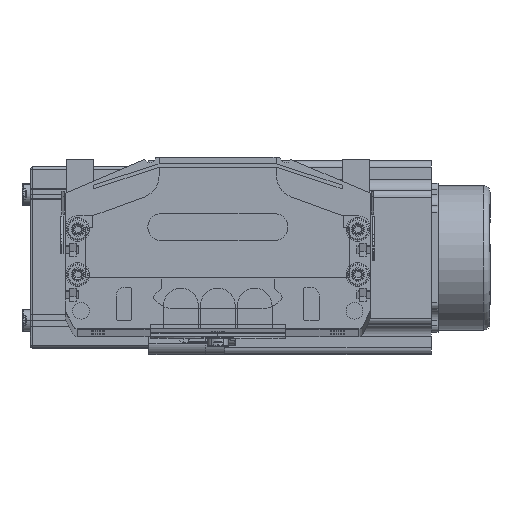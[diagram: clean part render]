
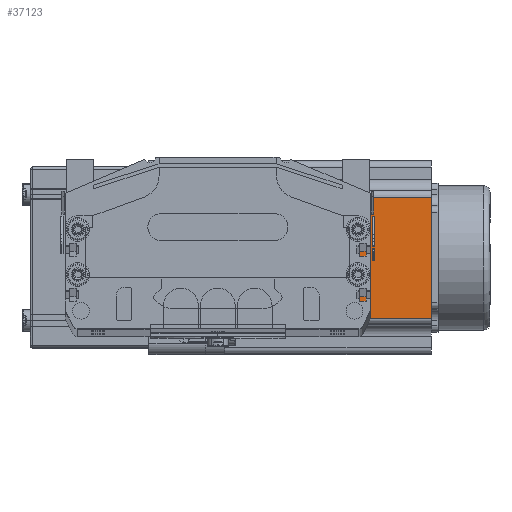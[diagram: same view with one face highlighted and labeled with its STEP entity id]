
A CAD part, top view. The second image highlights one B-rep face of the part: STEP entity #37123.
In plain terms, the highlighted planar face has unit normal (0, 0, 1) as drawn and (-1, 0, 0) by its records, which use the part's own axes.
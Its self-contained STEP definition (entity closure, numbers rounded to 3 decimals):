
#9176 = CARTESIAN_POINT ( 'NONE',  ( 0., 0., 91.5 ) ) ;
#9177 = LINE ( 'NONE', #9176, #9342 ) ;
#9278 = CARTESIAN_POINT ( 'NONE',  ( 0., 16.16, 91.5 ) ) ;
#9341 = DIRECTION ( 'NONE',  ( 0., -1., 0. ) ) ;
#9342 = VECTOR ( 'NONE', #9341, 1000. ) ;
#9491 = DIRECTION ( 'NONE',  ( 0., 0., -1. ) ) ;
#9492 = DIRECTION ( 'NONE',  ( 1., 0., 0. ) ) ;
#9504 = PLANE ( 'NONE',  #9534 ) ;
#9521 = CARTESIAN_POINT ( 'NONE',  ( 0., 0., 91.5 ) ) ;
#9525 = FACE_OUTER_BOUND ( 'NONE', #36968, .T. ) ;
#9534 = AXIS2_PLACEMENT_3D ( 'NONE', #9521, #9492, #9491 ) ;
#9685 = DIRECTION ( 'NONE',  ( 0., -1., 0. ) ) ;
#9686 = VECTOR ( 'NONE', #9685, 1000. ) ;
#9729 = CARTESIAN_POINT ( 'NONE',  ( 0., 0., 0. ) ) ;
#9730 = LINE ( 'NONE', #9729, #9686 ) ;
#9787 = CARTESIAN_POINT ( 'NONE',  ( 0., 69.74, 91.5 ) ) ;
#9818 = DIRECTION ( 'NONE',  ( 0., 0., 1. ) ) ;
#9831 = VECTOR ( 'NONE', #9818, 1000. ) ;
#9833 = CARTESIAN_POINT ( 'NONE',  ( 0., 16.16, 91.5 ) ) ;
#9888 = CARTESIAN_POINT ( 'NONE',  ( 0., 69.74, 0. ) ) ;
#9898 = LINE ( 'NONE', #9833, #9831 ) ;
#9947 = CARTESIAN_POINT ( 'NONE',  ( 0., 16.16, 0. ) ) ;
#9949 = DIRECTION ( 'NONE',  ( 0., 0., -1. ) ) ;
#9950 = VECTOR ( 'NONE', #9949, 1000. ) ;
#9951 = CARTESIAN_POINT ( 'NONE',  ( 0., 69.74, 91.5 ) ) ;
#9952 = LINE ( 'NONE', #9951, #9950 ) ;
#36965 = ORIENTED_EDGE ( 'NONE', *, *, #37306, .T. ) ;
#36968 = EDGE_LOOP ( 'NONE', ( #37125, #37038, #37033, #36965 ) ) ;
#36984 = VERTEX_POINT ( 'NONE', #9278 ) ;
#37028 = EDGE_CURVE ( 'NONE', #37245, #36984, #9177, .T. ) ;
#37033 = ORIENTED_EDGE ( 'NONE', *, *, #37028, .F. ) ;
#37038 = ORIENTED_EDGE ( 'NONE', *, *, #37236, .T. ) ;
#37123 = ADVANCED_FACE ( 'NONE', ( #9525 ), #9504, .F. ) ;
#37125 = ORIENTED_EDGE ( 'NONE', *, *, #37192, .T. ) ;
#37192 = EDGE_CURVE ( 'NONE', #37253, #37319, #9730, .T. ) ;
#37236 = EDGE_CURVE ( 'NONE', #37319, #36984, #9898, .T. ) ;
#37245 = VERTEX_POINT ( 'NONE', #9787 ) ;
#37253 = VERTEX_POINT ( 'NONE', #9888 ) ;
#37306 = EDGE_CURVE ( 'NONE', #37245, #37253, #9952, .T. ) ;
#37319 = VERTEX_POINT ( 'NONE', #9947 ) ;
